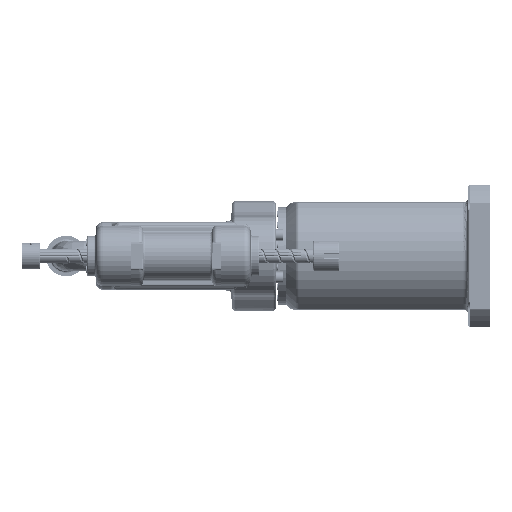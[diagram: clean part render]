
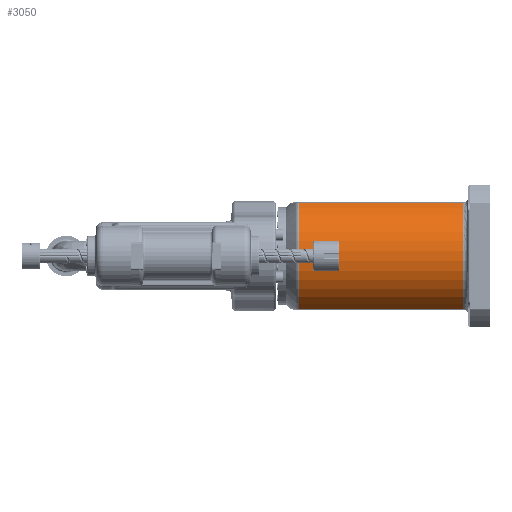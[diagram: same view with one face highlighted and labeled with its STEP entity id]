
A CAD part, left-side view. The second image highlights one B-rep face of the part: STEP entity #3050.
In plain terms, the highlighted cylindrical face has radius 67.5 mm (diameter 135 mm), a partial arc.
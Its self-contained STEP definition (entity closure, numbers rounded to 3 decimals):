
#3050 = ADVANCED_FACE ( 'NONE', ( #54728 ), #25682, .T. ) ;
#3840 = DIRECTION ( 'NONE',  ( 0., -1., 0. ) ) ;
#5066 = LINE ( 'NONE', #122187, #42120 ) ;
#5112 = DIRECTION ( 'NONE',  ( -1., 0., 0. ) ) ;
#12730 = DIRECTION ( 'NONE',  ( 0., 1., 0. ) ) ;
#18582 = DIRECTION ( 'NONE',  ( 0., 1., 0. ) ) ;
#25682 = CYLINDRICAL_SURFACE ( 'NONE', #101024, 67.5 ) ;
#25865 = DIRECTION ( 'NONE',  ( 0., 1., 0. ) ) ;
#28337 = EDGE_CURVE ( 'NONE', #146287, #118094, #5066, .T. ) ;
#28877 = CIRCLE ( 'NONE', #65582, 67.5 ) ;
#37488 = CARTESIAN_POINT ( 'NONE',  ( 0., 230., 0. ) ) ;
#38748 = CARTESIAN_POINT ( 'NONE',  ( 0., 30., 0. ) ) ;
#39309 = DIRECTION ( 'NONE',  ( 1., 0., 0. ) ) ;
#42120 = VECTOR ( 'NONE', #3840, 1000. ) ;
#42541 = EDGE_CURVE ( 'NONE', #118094, #151703, #28877, .T. ) ;
#43778 = CARTESIAN_POINT ( 'NONE',  ( 0., 215.929, 0. ) ) ;
#44695 = CARTESIAN_POINT ( 'NONE',  ( -31.108, 30., 59.904 ) ) ;
#46837 = LINE ( 'NONE', #58479, #53160 ) ;
#53160 = VECTOR ( 'NONE', #18582, 1000. ) ;
#54728 = FACE_OUTER_BOUND ( 'NONE', #143515, .T. ) ;
#58479 = CARTESIAN_POINT ( 'NONE',  ( -31.108, 230., 59.904 ) ) ;
#61923 = EDGE_CURVE ( 'NONE', #151703, #155611, #46837, .T. ) ;
#65582 = AXIS2_PLACEMENT_3D ( 'NONE', #38748, #12730, #39309 ) ;
#66110 = ORIENTED_EDGE ( 'NONE', *, *, #96738, .T. ) ;
#84266 = DIRECTION ( 'NONE',  ( 0., -1., 0. ) ) ;
#85989 = ORIENTED_EDGE ( 'NONE', *, *, #28337, .T. ) ;
#91503 = AXIS2_PLACEMENT_3D ( 'NONE', #43778, #84266, #5112 ) ;
#96738 = EDGE_CURVE ( 'NONE', #155611, #146287, #117302, .T. ) ;
#101024 = AXIS2_PLACEMENT_3D ( 'NONE', #37488, #25865, #160988 ) ;
#104946 = CARTESIAN_POINT ( 'NONE',  ( -31.108, 215.929, -59.904 ) ) ;
#116363 = ORIENTED_EDGE ( 'NONE', *, *, #61923, .T. ) ;
#117302 = CIRCLE ( 'NONE', #91503, 67.5 ) ;
#118094 = VERTEX_POINT ( 'NONE', #132871 ) ;
#122187 = CARTESIAN_POINT ( 'NONE',  ( -31.108, 230., -59.904 ) ) ;
#132871 = CARTESIAN_POINT ( 'NONE',  ( -31.108, 30., -59.904 ) ) ;
#143515 = EDGE_LOOP ( 'NONE', ( #66110, #85989, #165095, #116363 ) ) ;
#145169 = CARTESIAN_POINT ( 'NONE',  ( -31.108, 215.929, 59.904 ) ) ;
#146287 = VERTEX_POINT ( 'NONE', #104946 ) ;
#151703 = VERTEX_POINT ( 'NONE', #44695 ) ;
#155611 = VERTEX_POINT ( 'NONE', #145169 ) ;
#160988 = DIRECTION ( 'NONE',  ( -1., 0., 0. ) ) ;
#165095 = ORIENTED_EDGE ( 'NONE', *, *, #42541, .T. ) ;
